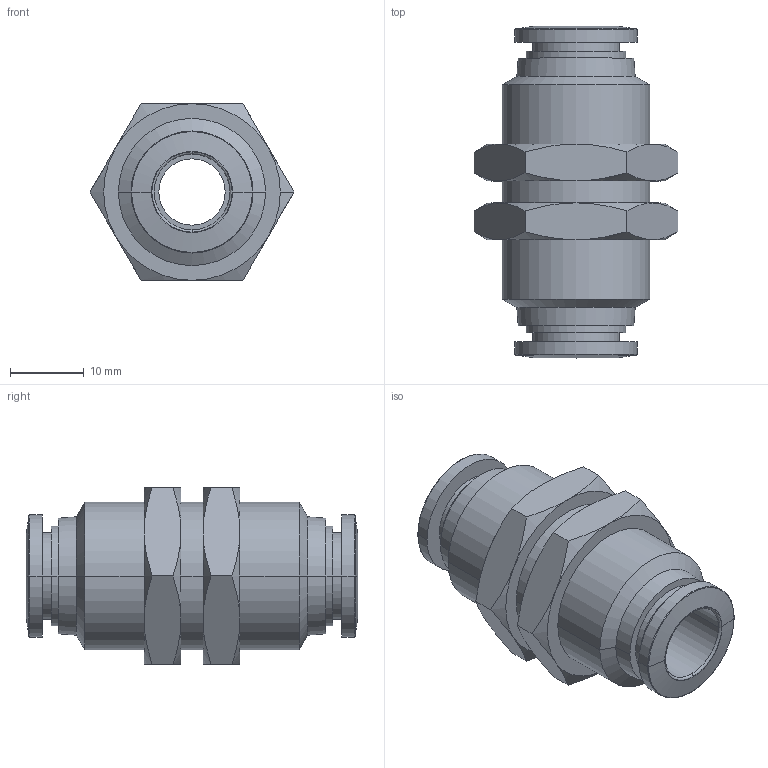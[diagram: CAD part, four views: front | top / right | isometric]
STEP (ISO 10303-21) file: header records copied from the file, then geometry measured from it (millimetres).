
FILE_DESCRIPTION (( 'STEP AP203' ), '1' );
FILE_NAME ('FE10-00.STEP', '2020-05-12T14:04:01', ( '' ), ( '' ), 'SwSTEP 2.0', 'SolidWorks 2019', '' );
FILE_SCHEMA (( 'CONFIG_CONTROL_DESIGN' ));
Length unit declared in the file: millimetre
Products named in the file (1): FE10-00
Bounding box: 27.71 x 45.1 x 24 mm (x, y, z)
Volume: 10303.6 mm3; surface area: 5656.8 mm2
Topology: 1 solids, 1 shells, 98 faces, 216 edges, 132 vertices
Faces by surface type: cone 40, plane 26, cylinder 24, torus 8
Entity records: 2741 total; most frequent: CARTESIAN_POINT 543, DIRECTION 482, ORIENTED_EDGE 432, EDGE_CURVE 216, AXIS2_PLACEMENT_3D 215, VERTEX_POINT 132, CIRCLE 116, EDGE_LOOP 112
